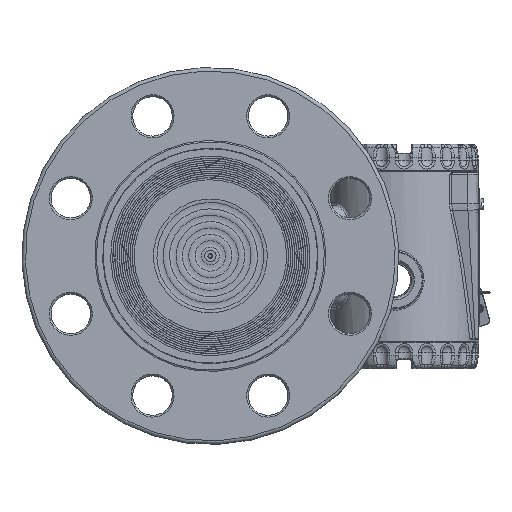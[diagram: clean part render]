
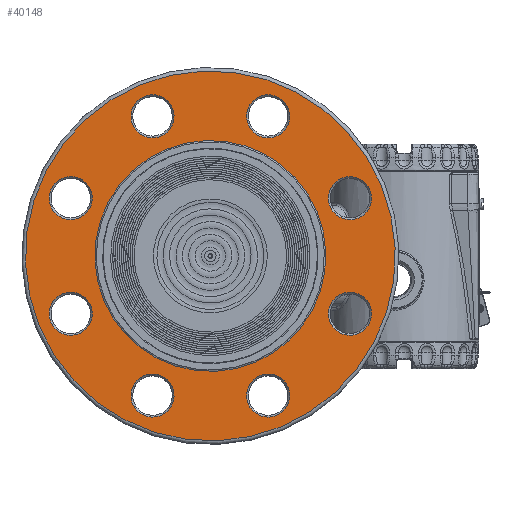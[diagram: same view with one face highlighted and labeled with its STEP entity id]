
A CAD part, top view. The second image highlights one B-rep face of the part: STEP entity #40148.
In plain terms, the highlighted planar face has unit normal (0, 0, 1) as drawn and (-1, 0, 0) by its records, which use the part's own axes.
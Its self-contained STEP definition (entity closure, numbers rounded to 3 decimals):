
#670=FACE_BOUND('',#6636,.T.);
#671=FACE_BOUND('',#6637,.T.);
#672=FACE_BOUND('',#6638,.T.);
#673=FACE_BOUND('',#6639,.T.);
#674=FACE_BOUND('',#6640,.T.);
#675=FACE_BOUND('',#6641,.T.);
#676=FACE_BOUND('',#6642,.T.);
#677=FACE_BOUND('',#6643,.T.);
#678=FACE_BOUND('',#6644,.T.);
#2587=PLANE('',#44598);
#3956=FACE_OUTER_BOUND('',#6635,.T.);
#6635=EDGE_LOOP('',(#30656,#30657));
#6636=EDGE_LOOP('',(#30658));
#6637=EDGE_LOOP('',(#30659));
#6638=EDGE_LOOP('',(#30660));
#6639=EDGE_LOOP('',(#30661));
#6640=EDGE_LOOP('',(#30662,#30663));
#6641=EDGE_LOOP('',(#30664));
#6642=EDGE_LOOP('',(#30665));
#6643=EDGE_LOOP('',(#30666));
#6644=EDGE_LOOP('',(#30667));
#13257=CIRCLE('',#44597,12.);
#13258=CIRCLE('',#44599,103.);
#13259=CIRCLE('',#44600,103.);
#13260=CIRCLE('',#44601,12.);
#13261=CIRCLE('',#44602,12.);
#13262=CIRCLE('',#44603,12.);
#13263=CIRCLE('',#44604,12.);
#13264=CIRCLE('',#44605,64.3);
#13265=CIRCLE('',#44606,64.3);
#13266=CIRCLE('',#44607,12.);
#13267=CIRCLE('',#44608,12.);
#13268=CIRCLE('',#44609,12.);
#17599=VERTEX_POINT('',#70985);
#17600=VERTEX_POINT('',#70989);
#17601=VERTEX_POINT('',#70990);
#17602=VERTEX_POINT('',#70993);
#17603=VERTEX_POINT('',#70995);
#17604=VERTEX_POINT('',#70997);
#17605=VERTEX_POINT('',#70999);
#17606=VERTEX_POINT('',#71001);
#17607=VERTEX_POINT('',#71002);
#17608=VERTEX_POINT('',#71005);
#17609=VERTEX_POINT('',#71007);
#17610=VERTEX_POINT('',#71009);
#22231=EDGE_CURVE('',#17599,#17599,#13257,.T.);
#22233=EDGE_CURVE('',#17600,#17601,#13258,.T.);
#22234=EDGE_CURVE('',#17601,#17600,#13259,.T.);
#22235=EDGE_CURVE('',#17602,#17602,#13260,.T.);
#22236=EDGE_CURVE('',#17603,#17603,#13261,.T.);
#22237=EDGE_CURVE('',#17604,#17604,#13262,.T.);
#22238=EDGE_CURVE('',#17605,#17605,#13263,.T.);
#22239=EDGE_CURVE('',#17606,#17607,#13264,.T.);
#22240=EDGE_CURVE('',#17607,#17606,#13265,.T.);
#22241=EDGE_CURVE('',#17608,#17608,#13266,.T.);
#22242=EDGE_CURVE('',#17609,#17609,#13267,.T.);
#22243=EDGE_CURVE('',#17610,#17610,#13268,.T.);
#30656=ORIENTED_EDGE('',*,*,#22233,.F.);
#30657=ORIENTED_EDGE('',*,*,#22234,.F.);
#30658=ORIENTED_EDGE('',*,*,#22235,.F.);
#30659=ORIENTED_EDGE('',*,*,#22236,.F.);
#30660=ORIENTED_EDGE('',*,*,#22237,.F.);
#30661=ORIENTED_EDGE('',*,*,#22238,.F.);
#30662=ORIENTED_EDGE('',*,*,#22239,.T.);
#30663=ORIENTED_EDGE('',*,*,#22240,.T.);
#30664=ORIENTED_EDGE('',*,*,#22241,.F.);
#30665=ORIENTED_EDGE('',*,*,#22242,.F.);
#30666=ORIENTED_EDGE('',*,*,#22243,.F.);
#30667=ORIENTED_EDGE('',*,*,#22231,.F.);
#40148=ADVANCED_FACE('',(#3956,#670,#671,#672,#673,#674,#675,#676,#677,
#678),#2587,.T.);
#44597=AXIS2_PLACEMENT_3D('',#70986,#52512,#52513);
#44598=AXIS2_PLACEMENT_3D('',#70988,#52515,#52516);
#44599=AXIS2_PLACEMENT_3D('',#70991,#52517,#52518);
#44600=AXIS2_PLACEMENT_3D('',#70992,#52519,#52520);
#44601=AXIS2_PLACEMENT_3D('',#70994,#52521,#52522);
#44602=AXIS2_PLACEMENT_3D('',#70996,#52523,#52524);
#44603=AXIS2_PLACEMENT_3D('',#70998,#52525,#52526);
#44604=AXIS2_PLACEMENT_3D('',#71000,#52527,#52528);
#44605=AXIS2_PLACEMENT_3D('',#71003,#52529,#52530);
#44606=AXIS2_PLACEMENT_3D('',#71004,#52531,#52532);
#44607=AXIS2_PLACEMENT_3D('',#71006,#52533,#52534);
#44608=AXIS2_PLACEMENT_3D('',#71008,#52535,#52536);
#44609=AXIS2_PLACEMENT_3D('',#71010,#52537,#52538);
#52512=DIRECTION('center_axis',(-1.,0.,0.));
#52513=DIRECTION('ref_axis',(0.,-0.707,-0.707));
#52515=DIRECTION('center_axis',(-1.,0.,0.));
#52516=DIRECTION('ref_axis',(0.,0.,1.));
#52517=DIRECTION('center_axis',(1.,0.,0.));
#52518=DIRECTION('ref_axis',(0.,1.,0.));
#52519=DIRECTION('center_axis',(1.,0.,0.));
#52520=DIRECTION('ref_axis',(0.,1.,0.));
#52521=DIRECTION('center_axis',(-1.,0.,0.));
#52522=DIRECTION('ref_axis',(0.,-1.,0.));
#52523=DIRECTION('center_axis',(-1.,0.,0.));
#52524=DIRECTION('ref_axis',(0.,0.,1.));
#52525=DIRECTION('center_axis',(-1.,0.,0.));
#52526=DIRECTION('ref_axis',(0.,1.,0.));
#52527=DIRECTION('center_axis',(-1.,0.,0.));
#52528=DIRECTION('ref_axis',(0.,0.,-1.));
#52529=DIRECTION('center_axis',(1.,0.,0.));
#52530=DIRECTION('ref_axis',(0.,1.,0.));
#52531=DIRECTION('center_axis',(1.,0.,0.));
#52532=DIRECTION('ref_axis',(0.,1.,0.));
#52533=DIRECTION('center_axis',(-1.,0.,0.));
#52534=DIRECTION('ref_axis',(0.,0.707,-0.707));
#52535=DIRECTION('center_axis',(-1.,0.,0.));
#52536=DIRECTION('ref_axis',(0.,0.707,0.707));
#52537=DIRECTION('center_axis',(-1.,0.,0.));
#52538=DIRECTION('ref_axis',(0.,-0.707,0.707));
#70985=CARTESIAN_POINT('',(7.,67.988,67.988));
#70986=CARTESIAN_POINT('Origin',(7.,59.503,59.503));
#70988=CARTESIAN_POINT('Origin',(7.,83.65,0.));
#70989=CARTESIAN_POINT('',(7.,103.,0.));
#70990=CARTESIAN_POINT('',(7.,0.,103.));
#70991=CARTESIAN_POINT('Origin',(7.,0.,0.));
#70992=CARTESIAN_POINT('Origin',(7.,0.,0.));
#70993=CARTESIAN_POINT('',(7.,96.15,0.));
#70994=CARTESIAN_POINT('Origin',(7.,84.15,0.));
#70995=CARTESIAN_POINT('',(7.,0.,-96.15));
#70996=CARTESIAN_POINT('Origin',(7.,0.,-84.15));
#70997=CARTESIAN_POINT('',(7.,-96.15,0.));
#70998=CARTESIAN_POINT('Origin',(7.,-84.15,0.));
#70999=CARTESIAN_POINT('',(7.,0.,96.15));
#71000=CARTESIAN_POINT('Origin',(7.,0.,84.15));
#71001=CARTESIAN_POINT('',(7.,64.3,0.));
#71002=CARTESIAN_POINT('',(7.,0.,64.3));
#71003=CARTESIAN_POINT('Origin',(7.,0.,0.));
#71004=CARTESIAN_POINT('Origin',(7.,0.,0.));
#71005=CARTESIAN_POINT('',(7.,-67.988,67.988));
#71006=CARTESIAN_POINT('Origin',(7.,-59.503,59.503));
#71007=CARTESIAN_POINT('',(7.,-67.988,-67.988));
#71008=CARTESIAN_POINT('Origin',(7.,-59.503,-59.503));
#71009=CARTESIAN_POINT('',(7.,67.988,-67.988));
#71010=CARTESIAN_POINT('Origin',(7.,59.503,-59.503));
